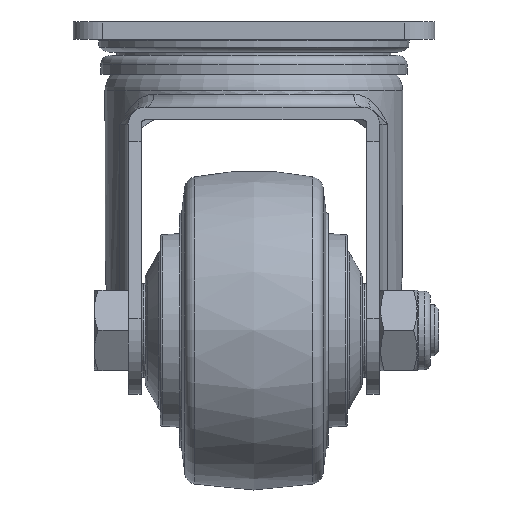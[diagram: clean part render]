
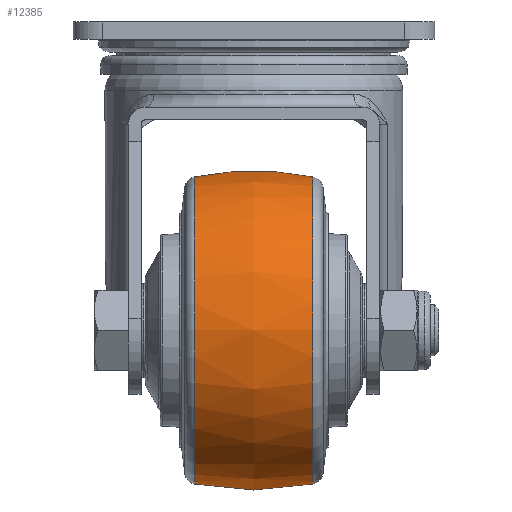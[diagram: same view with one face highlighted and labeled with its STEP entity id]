
A CAD part, front view. The second image highlights one B-rep face of the part: STEP entity #12385.
In plain terms, the highlighted free-form (B-spline) face has degree [2, 2] with [3, 9] control points.
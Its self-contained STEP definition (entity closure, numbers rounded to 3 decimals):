
#14=(
BOUNDED_CURVE()
B_SPLINE_CURVE(2,(#19010,#19011,#19012),.UNSPECIFIED.,.F.,.F.)
B_SPLINE_CURVE_WITH_KNOTS((3,3),(-0.2,0.2),
 .UNSPECIFIED.)
CURVE()
GEOMETRIC_REPRESENTATION_ITEM()
RATIONAL_B_SPLINE_CURVE((1.,0.98,1.))
REPRESENTATION_ITEM('')
);
#69=(
BOUNDED_SURFACE()
B_SPLINE_SURFACE(2,2,((#18982,#18983,#18984,#18985,#18986,#18987,#18988,
#18989,#18990),(#18991,#18992,#18993,#18994,#18995,#18996,#18997,#18998,
#18999),(#19000,#19001,#19002,#19003,#19004,#19005,#19006,#19007,#19008)),
 .UNSPECIFIED.,.F.,.T.,.F.)
B_SPLINE_SURFACE_WITH_KNOTS((3,3),(3,2,2,2,3),(-0.2,0.2),
(-3.142,-1.571,0.,1.571,3.142),
 .UNSPECIFIED.)
GEOMETRIC_REPRESENTATION_ITEM()
RATIONAL_B_SPLINE_SURFACE(((1.,0.707,1.,0.707,1.,
0.707,1.,0.707,1.),(0.98,0.693,
0.98,0.693,0.98,0.693,
0.98,0.693,0.98),(1.,0.707,
1.,0.707,1.,0.707,1.,0.707,1.)))
REPRESENTATION_ITEM('')
SURFACE()
);
#4098=FACE_OUTER_BOUND('',#4881,.T.);
#4881=EDGE_LOOP('',(#10192,#10193,#10194,#10195,#10196,#10197));
#5509=CIRCLE('',#13297,36.111);
#5510=CIRCLE('',#13298,36.111);
#5511=CIRCLE('',#13299,36.111);
#5512=CIRCLE('',#13300,36.111);
#6234=VERTEX_POINT('',#18978);
#6235=VERTEX_POINT('',#18979);
#6236=VERTEX_POINT('',#19009);
#6237=VERTEX_POINT('',#19013);
#7661=EDGE_CURVE('',#6234,#6235,#5509,.T.);
#7662=EDGE_CURVE('',#6235,#6234,#5510,.T.);
#7663=EDGE_CURVE('',#6235,#6236,#14,.T.);
#7664=EDGE_CURVE('',#6237,#6236,#5511,.T.);
#7665=EDGE_CURVE('',#6236,#6237,#5512,.T.);
#10192=ORIENTED_EDGE('',*,*,#7661,.F.);
#10193=ORIENTED_EDGE('',*,*,#7662,.F.);
#10194=ORIENTED_EDGE('',*,*,#7663,.T.);
#10195=ORIENTED_EDGE('',*,*,#7664,.F.);
#10196=ORIENTED_EDGE('',*,*,#7665,.F.);
#10197=ORIENTED_EDGE('',*,*,#7663,.F.);
#12385=ADVANCED_FACE('',(#4098),#69,.F.);
#13297=AXIS2_PLACEMENT_3D('',#18980,#15231,#15232);
#13298=AXIS2_PLACEMENT_3D('',#18981,#15233,#15234);
#13299=AXIS2_PLACEMENT_3D('',#19014,#15235,#15236);
#13300=AXIS2_PLACEMENT_3D('',#19015,#15237,#15238);
#15231=DIRECTION('center_axis',(1.,0.,0.));
#15232=DIRECTION('ref_axis',(0.,-1.,0.));
#15233=DIRECTION('center_axis',(1.,0.,0.));
#15234=DIRECTION('ref_axis',(0.,-1.,0.));
#15235=DIRECTION('center_axis',(-1.,0.,0.));
#15236=DIRECTION('ref_axis',(0.,-1.,0.));
#15237=DIRECTION('center_axis',(-1.,0.,0.));
#15238=DIRECTION('ref_axis',(0.,-1.,0.));
#18978=CARTESIAN_POINT('',(13.876,-1.889,-72.5));
#18979=CARTESIAN_POINT('',(13.876,-38.,-36.389));
#18980=CARTESIAN_POINT('Origin',(13.876,-38.,-72.5));
#18981=CARTESIAN_POINT('Origin',(13.876,-38.,-72.5));
#18982=CARTESIAN_POINT('Ctrl Pts',(-13.876,-38.,-36.389));
#18983=CARTESIAN_POINT('Ctrl Pts',(-13.876,-74.111,-36.389));
#18984=CARTESIAN_POINT('Ctrl Pts',(-13.876,-74.111,-72.5));
#18985=CARTESIAN_POINT('Ctrl Pts',(-13.876,-74.111,-108.611));
#18986=CARTESIAN_POINT('Ctrl Pts',(-13.876,-38.,-108.611));
#18987=CARTESIAN_POINT('Ctrl Pts',(-13.876,-1.889,-108.611));
#18988=CARTESIAN_POINT('Ctrl Pts',(-13.876,-1.889,-72.5));
#18989=CARTESIAN_POINT('Ctrl Pts',(-13.876,-1.889,-36.389));
#18990=CARTESIAN_POINT('Ctrl Pts',(-13.876,-38.,-36.389));
#18991=CARTESIAN_POINT('Ctrl Pts',(0.,-38.,
-33.583));
#18992=CARTESIAN_POINT('Ctrl Pts',(0.,-76.917,
-33.583));
#18993=CARTESIAN_POINT('Ctrl Pts',(0.,-76.917,
-72.5));
#18994=CARTESIAN_POINT('Ctrl Pts',(0.,-76.917,
-111.417));
#18995=CARTESIAN_POINT('Ctrl Pts',(0.,-38.,
-111.417));
#18996=CARTESIAN_POINT('Ctrl Pts',(0.,0.917,
-111.417));
#18997=CARTESIAN_POINT('Ctrl Pts',(0.,0.917,
-72.5));
#18998=CARTESIAN_POINT('Ctrl Pts',(0.,0.917,
-33.583));
#18999=CARTESIAN_POINT('Ctrl Pts',(0.,-38.,
-33.583));
#19000=CARTESIAN_POINT('Ctrl Pts',(13.876,-38.,-36.389));
#19001=CARTESIAN_POINT('Ctrl Pts',(13.876,-74.111,-36.389));
#19002=CARTESIAN_POINT('Ctrl Pts',(13.876,-74.111,-72.5));
#19003=CARTESIAN_POINT('Ctrl Pts',(13.876,-74.111,-108.611));
#19004=CARTESIAN_POINT('Ctrl Pts',(13.876,-38.,-108.611));
#19005=CARTESIAN_POINT('Ctrl Pts',(13.876,-1.889,-108.611));
#19006=CARTESIAN_POINT('Ctrl Pts',(13.876,-1.889,-72.5));
#19007=CARTESIAN_POINT('Ctrl Pts',(13.876,-1.889,-36.389));
#19008=CARTESIAN_POINT('Ctrl Pts',(13.876,-38.,-36.389));
#19009=CARTESIAN_POINT('',(-13.876,-38.,-36.389));
#19010=CARTESIAN_POINT('Ctrl Pts',(13.876,-38.,-36.389));
#19011=CARTESIAN_POINT('Ctrl Pts',(0.,-38.,
-33.583));
#19012=CARTESIAN_POINT('Ctrl Pts',(-13.876,-38.,-36.389));
#19013=CARTESIAN_POINT('',(-13.876,-1.889,-72.5));
#19014=CARTESIAN_POINT('Origin',(-13.876,-38.,-72.5));
#19015=CARTESIAN_POINT('Origin',(-13.876,-38.,-72.5));
